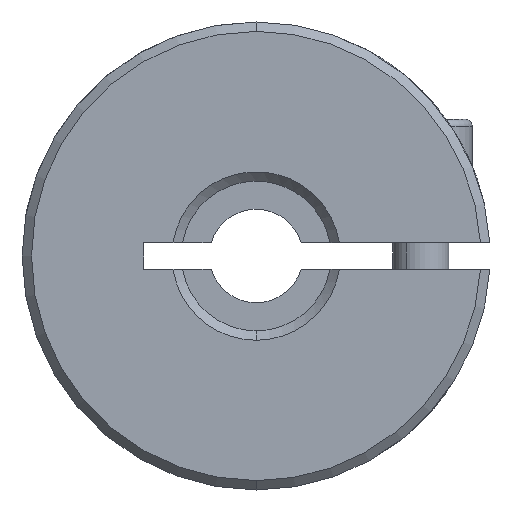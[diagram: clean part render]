
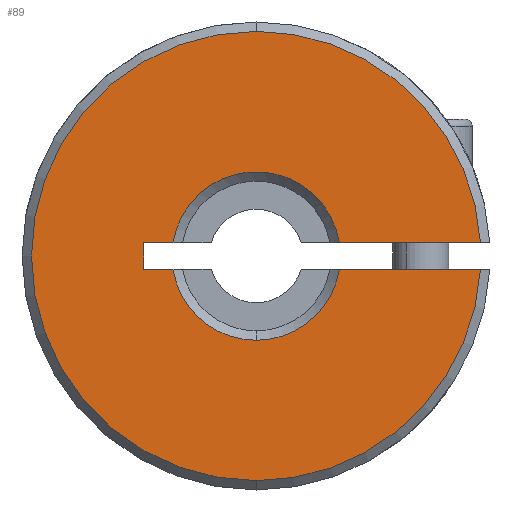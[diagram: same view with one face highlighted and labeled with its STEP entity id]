
A CAD part, front view. The second image highlights one B-rep face of the part: STEP entity #89.
In plain terms, the highlighted planar face has unit normal (0, -1, 0).
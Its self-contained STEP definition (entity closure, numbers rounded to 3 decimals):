
#72 = ORIENTED_EDGE ( 'NONE', *, *, #204, .F. ) ;
#84 = ORIENTED_EDGE ( 'NONE', *, *, #1204, .T. ) ;
#89 = ADVANCED_FACE ( 'NONE', ( #4468 ), #1706, .F. ) ;
#110 = DIRECTION ( 'NONE',  ( 0., 1., 0. ) ) ;
#115 = AXIS2_PLACEMENT_3D ( 'NONE', #831, #110, #4563 ) ;
#124 = DIRECTION ( 'NONE',  ( 0., -1., 0. ) ) ;
#185 = AXIS2_PLACEMENT_3D ( 'NONE', #5194, #124, #5561 ) ;
#204 = EDGE_CURVE ( 'NONE', #2297, #3000, #4324, .T. ) ;
#296 = DIRECTION ( 'NONE',  ( 0., -1., 0. ) ) ;
#403 = CARTESIAN_POINT ( 'NONE',  ( 0., 0.25, 0. ) ) ;
#425 = ORIENTED_EDGE ( 'NONE', *, *, #2017, .F. ) ;
#574 = AXIS2_PLACEMENT_3D ( 'NONE', #3578, #2191, #1329 ) ;
#575 = DIRECTION ( 'NONE',  ( 0., 1., 0. ) ) ;
#619 = CARTESIAN_POINT ( 'NONE',  ( -4.445, 0.25, 0.7 ) ) ;
#636 = CIRCLE ( 'NONE', #1949, 4.5 ) ;
#793 = LINE ( 'NONE', #2092, #3070 ) ;
#831 = CARTESIAN_POINT ( 'NONE',  ( -50., 0.25, 17.349 ) ) ;
#850 = EDGE_CURVE ( 'NONE', #3161, #976, #2724, .T. ) ;
#976 = VERTEX_POINT ( 'NONE', #4544 ) ;
#1096 = CARTESIAN_POINT ( 'NONE',  ( -4.445, 0.25, -0.7 ) ) ;
#1100 = DIRECTION ( 'NONE',  ( 0., 0., 1. ) ) ;
#1204 = EDGE_CURVE ( 'NONE', #2297, #1765, #5670, .T. ) ;
#1258 = VECTOR ( 'NONE', #2776, 1000. ) ;
#1329 = DIRECTION ( 'NONE',  ( 0., 0., 1. ) ) ;
#1372 = EDGE_CURVE ( 'NONE', #3196, #3000, #2362, .T. ) ;
#1474 = ORIENTED_EDGE ( 'NONE', *, *, #1800, .F. ) ;
#1526 = ORIENTED_EDGE ( 'NONE', *, *, #5844, .T. ) ;
#1527 = CARTESIAN_POINT ( 'NONE',  ( 4.445, 0.25, -0.7 ) ) ;
#1693 = ORIENTED_EDGE ( 'NONE', *, *, #850, .T. ) ;
#1706 = PLANE ( 'NONE',  #115 ) ;
#1765 = VERTEX_POINT ( 'NONE', #2719 ) ;
#1800 = EDGE_CURVE ( 'NONE', #4049, #3838, #5557, .T. ) ;
#1820 = ORIENTED_EDGE ( 'NONE', *, *, #2541, .T. ) ;
#1898 = DIRECTION ( 'NONE',  ( 0., -1., 0. ) ) ;
#1949 = AXIS2_PLACEMENT_3D ( 'NONE', #403, #4006, #3033 ) ;
#2017 = EDGE_CURVE ( 'NONE', #4303, #4848, #2565, .T. ) ;
#2032 = VECTOR ( 'NONE', #3199, 1000. ) ;
#2092 = CARTESIAN_POINT ( 'NONE',  ( -6., 0.25, 0.7 ) ) ;
#2188 = VECTOR ( 'NONE', #2616, 1000. ) ;
#2191 = DIRECTION ( 'NONE',  ( 0., 1., 0. ) ) ;
#2297 = VERTEX_POINT ( 'NONE', #1527 ) ;
#2307 = CIRCLE ( 'NONE', #5619, 4.5 ) ;
#2362 = CIRCLE ( 'NONE', #3776, 12. ) ;
#2365 = DIRECTION ( 'NONE',  ( 0., 0., 1. ) ) ;
#2535 = CARTESIAN_POINT ( 'NONE',  ( 0., 0.25, 0. ) ) ;
#2541 = EDGE_CURVE ( 'NONE', #4303, #3871, #2307, .T. ) ;
#2565 = LINE ( 'NONE', #3510, #3909 ) ;
#2574 = EDGE_LOOP ( 'NONE', ( #425, #1820, #4713, #1693, #1526, #5421, #72, #84, #2635, #1474, #4530 ) ) ;
#2616 = DIRECTION ( 'NONE',  ( 1., 0., 0. ) ) ;
#2635 = ORIENTED_EDGE ( 'NONE', *, *, #3372, .T. ) ;
#2654 = DIRECTION ( 'NONE',  ( -1., 0., 0. ) ) ;
#2719 = CARTESIAN_POINT ( 'NONE',  ( 0., 0.25, -4.5 ) ) ;
#2724 = CIRCLE ( 'NONE', #185, 12. ) ;
#2776 = DIRECTION ( 'NONE',  ( 1., 0., 0. ) ) ;
#2831 = CARTESIAN_POINT ( 'NONE',  ( 0., 0.25, -12. ) ) ;
#2935 = CARTESIAN_POINT ( 'NONE',  ( -6., 0.25, -0.7 ) ) ;
#2960 = CARTESIAN_POINT ( 'NONE',  ( 11.98, 0.25, -0.7 ) ) ;
#3000 = VERTEX_POINT ( 'NONE', #2960 ) ;
#3033 = DIRECTION ( 'NONE',  ( 0., 0., 1. ) ) ;
#3070 = VECTOR ( 'NONE', #3951, 1000. ) ;
#3161 = VERTEX_POINT ( 'NONE', #4974 ) ;
#3196 = VERTEX_POINT ( 'NONE', #2831 ) ;
#3199 = DIRECTION ( 'NONE',  ( 0., 0., -1. ) ) ;
#3314 = CARTESIAN_POINT ( 'NONE',  ( -6., 0.25, -0.7 ) ) ;
#3372 = EDGE_CURVE ( 'NONE', #1765, #3838, #636, .T. ) ;
#3510 = CARTESIAN_POINT ( 'NONE',  ( -6., 0.25, 0.7 ) ) ;
#3518 = CARTESIAN_POINT ( 'NONE',  ( -6., 0.25, -0.7 ) ) ;
#3578 = CARTESIAN_POINT ( 'NONE',  ( 0., 0.25, 0. ) ) ;
#3648 = CARTESIAN_POINT ( 'NONE',  ( 4.445, 0.25, 0.7 ) ) ;
#3701 = CARTESIAN_POINT ( 'NONE',  ( 0., 0.25, 0. ) ) ;
#3776 = AXIS2_PLACEMENT_3D ( 'NONE', #3701, #1898, #2365 ) ;
#3838 = VERTEX_POINT ( 'NONE', #1096 ) ;
#3871 = VERTEX_POINT ( 'NONE', #3648 ) ;
#3909 = VECTOR ( 'NONE', #2654, 1000. ) ;
#3951 = DIRECTION ( 'NONE',  ( -1., 0., 0. ) ) ;
#4006 = DIRECTION ( 'NONE',  ( 0., 1., 0. ) ) ;
#4049 = VERTEX_POINT ( 'NONE', #2935 ) ;
#4200 = AXIS2_PLACEMENT_3D ( 'NONE', #2535, #296, #4408 ) ;
#4303 = VERTEX_POINT ( 'NONE', #619 ) ;
#4324 = LINE ( 'NONE', #4856, #2188 ) ;
#4408 = DIRECTION ( 'NONE',  ( 0., 0., 1. ) ) ;
#4422 = LINE ( 'NONE', #3518, #2032 ) ;
#4468 = FACE_OUTER_BOUND ( 'NONE', #2574, .T. ) ;
#4530 = ORIENTED_EDGE ( 'NONE', *, *, #5606, .F. ) ;
#4544 = CARTESIAN_POINT ( 'NONE',  ( 0., 0.25, 12. ) ) ;
#4563 = DIRECTION ( 'NONE',  ( 0., 0., 1. ) ) ;
#4586 = CARTESIAN_POINT ( 'NONE',  ( 0., 0.25, 0. ) ) ;
#4713 = ORIENTED_EDGE ( 'NONE', *, *, #5856, .F. ) ;
#4848 = VERTEX_POINT ( 'NONE', #4969 ) ;
#4856 = CARTESIAN_POINT ( 'NONE',  ( -6., 0.25, -0.7 ) ) ;
#4969 = CARTESIAN_POINT ( 'NONE',  ( -6., 0.25, 0.7 ) ) ;
#4974 = CARTESIAN_POINT ( 'NONE',  ( 11.98, 0.25, 0.7 ) ) ;
#5194 = CARTESIAN_POINT ( 'NONE',  ( 0., 0.25, 0. ) ) ;
#5421 = ORIENTED_EDGE ( 'NONE', *, *, #1372, .T. ) ;
#5526 = CIRCLE ( 'NONE', #4200, 12. ) ;
#5557 = LINE ( 'NONE', #3314, #1258 ) ;
#5561 = DIRECTION ( 'NONE',  ( 0., 0., 1. ) ) ;
#5606 = EDGE_CURVE ( 'NONE', #4848, #4049, #4422, .T. ) ;
#5619 = AXIS2_PLACEMENT_3D ( 'NONE', #4586, #575, #1100 ) ;
#5670 = CIRCLE ( 'NONE', #574, 4.5 ) ;
#5844 = EDGE_CURVE ( 'NONE', #976, #3196, #5526, .T. ) ;
#5856 = EDGE_CURVE ( 'NONE', #3161, #3871, #793, .T. ) ;
